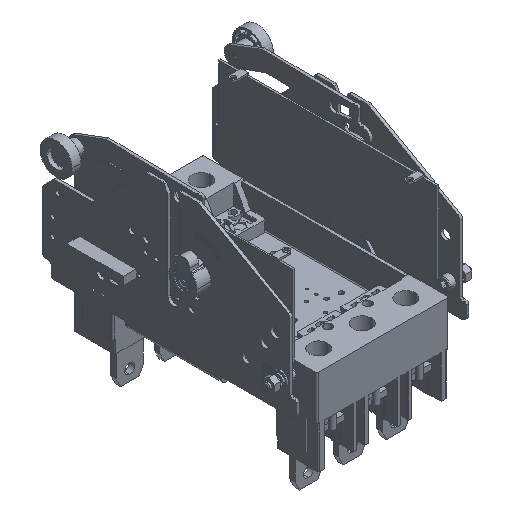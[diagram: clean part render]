
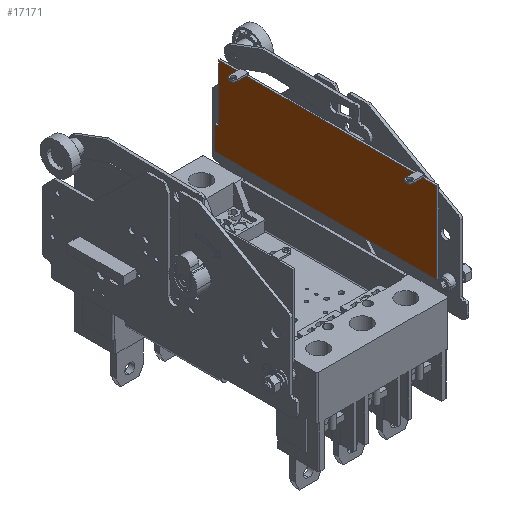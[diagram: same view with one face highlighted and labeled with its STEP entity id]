
A CAD part, isometric view. The second image highlights one B-rep face of the part: STEP entity #17171.
In plain terms, the highlighted planar face has unit normal (-1, 0, 0) as drawn and (0, 0, 1) by its records, which use the part's own axes.
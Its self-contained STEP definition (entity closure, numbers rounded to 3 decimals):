
#3708 = LINE ( 'NONE', #11681, #85985 ) ;
#9865 = CARTESIAN_POINT ( 'NONE',  ( 1368.191, -16.876, 10.7 ) ) ;
#11681 = CARTESIAN_POINT ( 'NONE',  ( 0., -82.376, 10.7 ) ) ;
#14744 = VERTEX_POINT ( 'NONE', #30642 ) ;
#17171 = ADVANCED_FACE ( 'NONE', ( #56509 ), #56041, .F. ) ;
#18150 = VERTEX_POINT ( 'NONE', #31346 ) ;
#19710 = CARTESIAN_POINT ( 'NONE',  ( 1373.191, -82.376, 10.7 ) ) ;
#21643 = LINE ( 'NONE', #48410, #26273 ) ;
#24140 = ORIENTED_EDGE ( 'NONE', *, *, #43665, .F. ) ;
#25555 = VECTOR ( 'NONE', #87377, 1000. ) ;
#25829 = DIRECTION ( 'NONE',  ( 1., 0., 0. ) ) ;
#26273 = VECTOR ( 'NONE', #92059, 1000. ) ;
#27840 = EDGE_CURVE ( 'NONE', #14744, #53557, #21643, .T. ) ;
#28616 = DIRECTION ( 'NONE',  ( -1., 0., 0. ) ) ;
#30458 = LINE ( 'NONE', #79287, #48481 ) ;
#30642 = CARTESIAN_POINT ( 'NONE',  ( 1613.191, -18.876, 10.7 ) ) ;
#31346 = CARTESIAN_POINT ( 'NONE',  ( 1368.191, -108.376, 10.7 ) ) ;
#33277 = ORIENTED_EDGE ( 'NONE', *, *, #68087, .F. ) ;
#36057 = DIRECTION ( 'NONE',  ( 1., 0., 0. ) ) ;
#41927 = ORIENTED_EDGE ( 'NONE', *, *, #47711, .F. ) ;
#42413 = AXIS2_PLACEMENT_3D ( 'NONE', #62603, #85139, #91257 ) ;
#43665 = EDGE_CURVE ( 'NONE', #53557, #18150, #30458, .T. ) ;
#45826 = CARTESIAN_POINT ( 'NONE',  ( 1613.191, -108.376, 10.7 ) ) ;
#47711 = EDGE_CURVE ( 'NONE', #51071, #14744, #56716, .T. ) ;
#47741 = VECTOR ( 'NONE', #48454, 1000. ) ;
#48410 = CARTESIAN_POINT ( 'NONE',  ( 1613.191, -108.376, 10.7 ) ) ;
#48454 = DIRECTION ( 'NONE',  ( 0., 1., 0. ) ) ;
#48481 = VECTOR ( 'NONE', #28616, 1000. ) ;
#48562 = CARTESIAN_POINT ( 'NONE',  ( 1373.191, -18.876, 10.7 ) ) ;
#48916 = CARTESIAN_POINT ( 'NONE',  ( 1373.191, 0., 10.7 ) ) ;
#48945 = ORIENTED_EDGE ( 'NONE', *, *, #53640, .F. ) ;
#50154 = VERTEX_POINT ( 'NONE', #56758 ) ;
#51071 = VERTEX_POINT ( 'NONE', #48562 ) ;
#53557 = VERTEX_POINT ( 'NONE', #45826 ) ;
#53640 = EDGE_CURVE ( 'NONE', #50154, #92769, #3708, .T. ) ;
#56041 = PLANE ( 'NONE',  #42413 ) ;
#56509 = FACE_OUTER_BOUND ( 'NONE', #78604, .T. ) ;
#56716 = LINE ( 'NONE', #71717, #68823 ) ;
#56758 = CARTESIAN_POINT ( 'NONE',  ( 1368.191, -82.376, 10.7 ) ) ;
#58732 = LINE ( 'NONE', #9865, #25555 ) ;
#62603 = CARTESIAN_POINT ( 'NONE',  ( 0., 0., 10.7 ) ) ;
#68087 = EDGE_CURVE ( 'NONE', #18150, #50154, #58732, .T. ) ;
#68823 = VECTOR ( 'NONE', #36057, 1000. ) ;
#71717 = CARTESIAN_POINT ( 'NONE',  ( 0., -18.876, 10.7 ) ) ;
#78604 = EDGE_LOOP ( 'NONE', ( #78993, #48945, #33277, #24140, #82262, #41927 ) ) ;
#78993 = ORIENTED_EDGE ( 'NONE', *, *, #79076, .F. ) ;
#79076 = EDGE_CURVE ( 'NONE', #92769, #51071, #84600, .T. ) ;
#79287 = CARTESIAN_POINT ( 'NONE',  ( 1368.191, -108.376, 10.7 ) ) ;
#82262 = ORIENTED_EDGE ( 'NONE', *, *, #27840, .F. ) ;
#84600 = LINE ( 'NONE', #48916, #47741 ) ;
#85139 = DIRECTION ( 'NONE',  ( 0., 0., -1. ) ) ;
#85985 = VECTOR ( 'NONE', #25829, 1000. ) ;
#87377 = DIRECTION ( 'NONE',  ( 0., 1., 0. ) ) ;
#91257 = DIRECTION ( 'NONE',  ( 0., -1., 0. ) ) ;
#92059 = DIRECTION ( 'NONE',  ( 0., -1., 0. ) ) ;
#92769 = VERTEX_POINT ( 'NONE', #19710 ) ;
